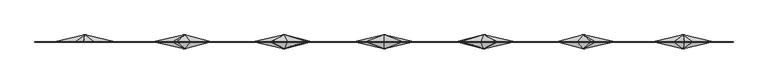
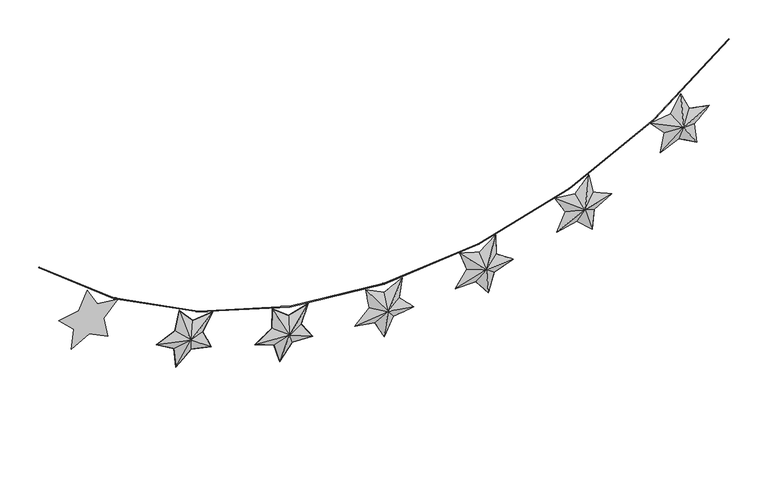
"""IFC4 building model written with IfcOpenShell, lengths in millimetres: furniture geometry, Blocks_Star Garland_F00495EN : Amarelo."""

from ifc_helpers import new_model, si_unit, point, frame, origin, place, context, project, spatial, circle_curve, ellipse_curve, trimmed, source, transform, mapped, element, save
from ifc_brep_helpers import plane_surface, revolved_surface, spline_surface, advanced_brep


def furniture_94a8f807(model_context):
    return source(origin(), model_context, "Body", "AdvancedBrep", [
        advanced_brep(
        [(0.0922072, -20.0, 2127.5237632), (-0.1817259, -20.0, 2126.6806837), (0.5889831, -20.0, 2126.1161692), (1.3269529, -20.0, 2126.6523356), (1.0364943, -20.0, 2127.5237632), (-52.5, 0.0, 2199.9107264), (0.4006727, 0.0, 2172.9564873), (53.3013454, 0.0, 2199.9107264), (44.0135476, 0.0, 2141.269879), (85.9957592, 0.0, 2099.2876674), (27.3549117, 0.0, 2089.9998696), (0.4006727, 0.0, 2037.0991969), (-26.5535663, 0.0, 2089.9998696), (-85.1944138, 0.0, 2099.2876674), (-43.2122022, 0.0, 2141.269879)],
        [
            (0, 1),
            (1, 2),
            (2, 3),
            (3, 4),
            (4, 0),
            (5, 6),
            (6, 7),
            (7, 8),
            (8, 9),
            (9, 10),
            (10, 11),
            (11, 12),
            (12, 13),
            (13, 14),
            (14, 5),
            (14, 1),
            (0, 5),
            (13, 1),
            (12, 1),
            (11, 2),
            (8, 4),
            (3, 9),
            (7, 4),
            (10, 2),
            (6, 0),
        ],
        [
            plane_surface(frame((0.5725823, -20.0, 2126.899343), z_axis=(0.0, -1.0000000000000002, 0.0), x_axis=(-0.30901699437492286, 0.0, -0.9510565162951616))),
            plane_surface(frame((0.4006727, 0.0, 2127.0991969), z_axis=(0.0, 1.0000000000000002, 0.0), x_axis=(-0.30901699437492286, 0.0, -0.9510565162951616))),
            spline_surface(1, 1, [[(-52.5, 0.0, 2199.9107264), (0.0922072, -20.0, 2127.5237632)], [(-43.2122022, 0.0, 2141.269879), (-0.1817259, -20.0, 2126.6806837)]], [2, 2], [2, 2], [0.0, 1.0], [0.0, 1.0]),
            plane_surface(frame((-64.203308, 0.0, 2120.2787732), z_axis=(-0.3115874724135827, -0.8976783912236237, 0.3115874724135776), x_axis=(-0.7071067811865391, 0.0, -0.707106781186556))),
            plane_surface(frame((-55.87399, 0.0, 2094.6437685), z_axis=(-0.06946642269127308, -0.8959966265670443, -0.4385937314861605), x_axis=(0.9876883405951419, 0.0, -0.15643446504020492))),
            spline_surface(1, 1, [[(-26.5535663, 0.0, 2089.9998696), (-0.1817259, -20.0, 2126.6806837)], [(0.4006727, 0.0, 2037.0991969), (0.5889831, -20.0, 2126.1161692)]], [2, 2], [2, 2], [0.0, 1.0], [0.0, 1.0]),
            spline_surface(1, 1, [[(85.9957592, 0.0, 2099.2876674), (1.3269529, -20.0, 2126.6523356)], [(44.0135476, 0.0, 2141.269879), (1.0364943, -20.0, 2127.5237632)]], [2, 2], [2, 2], [0.0, 1.0], [0.0, 1.0]),
            plane_surface(frame((48.6574465, 0.0, 2170.5903027), z_axis=(0.43909252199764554, -0.8957461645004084, -0.06954542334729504), x_axis=(0.15643446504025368, 0.0, 0.9876883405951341))),
            plane_surface(frame((13.8777922, 0.0, 2063.5495332), z_axis=(0.3965254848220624, -0.8955151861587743, -0.2020398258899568), x_axis=(0.45399049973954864, 0.0, 0.8910065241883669))),
            spline_surface(1, 1, [[(27.3549117, 0.0, 2089.9998696), (0.5889831, -20.0, 2126.1161692)], [(85.9957592, 0.0, 2099.2876674), (1.3269529, -20.0, 2126.6523356)]], [2, 2], [2, 2], [0.0, 1.0], [0.0, 1.0]),
            spline_surface(1, 1, [[(53.3013454, 0.0, 2199.9107264), (1.0364943, -20.0, 2127.5237632)], [(0.4006727, 0.0, 2172.9564873), (0.0922072, -20.0, 2127.5237632)]], [2, 2], [2, 2], [0.0, 1.0], [0.0, 1.0]),
            plane_surface(frame((-26.0496636, 0.0, 2186.4336069), z_axis=(0.2005366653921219, -0.8971529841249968, 0.3935753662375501), x_axis=(-0.8910065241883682, 0.0, 0.4539904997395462))),
        ],
        [
            (0, [[1, 2, 3, 4, 5]]),
            (1, [[6, 7, 8, 9, 10, 11, 12, 13, 14, 15]]),
            (2, [[-15, 16, -1, 17]]),
            (3, [[-14, 18, -16]]),
            (4, [[-13, 19, -18]]),
            (5, [[-12, 20, -2, -19]]),
            (6, [[-9, 21, -4, 22]]),
            (7, [[-8, 23, -21]]),
            (8, [[-11, 24, -20]]),
            (9, [[-10, -22, -3, -24]]),
            (10, [[-7, 25, -5, -23]]),
            (11, [[-6, -17, -25]]),
        ],
    ),
        advanced_brep(
        [(0.0922072, 20.0, 2127.5237632), (1.0364943, 20.0, 2127.5237632), (1.3269529, 20.0, 2126.6523356), (0.5889831, 20.0, 2126.1161692), (-0.1817259, 20.0, 2126.6806837), (-52.5, 0.0, 2199.9107264), (-43.2122022, 0.0, 2141.269879), (-85.1944138, 0.0, 2099.2876674), (-26.5535663, 0.0, 2089.9998696), (0.4006727, 0.0, 2037.0991969), (27.3549117, 0.0, 2089.9998696), (85.9957592, 0.0, 2099.2876674), (44.0135476, 0.0, 2141.269879), (53.3013454, 0.0, 2199.9107264), (0.4006727, 0.0, 2172.9564873)],
        [
            (0, 1),
            (1, 2),
            (2, 3),
            (3, 4),
            (4, 0),
            (5, 6),
            (6, 7),
            (7, 8),
            (8, 9),
            (9, 10),
            (10, 11),
            (11, 12),
            (12, 13),
            (13, 14),
            (14, 5),
            (5, 0),
            (4, 6),
            (4, 7),
            (4, 8),
            (3, 9),
            (11, 2),
            (1, 12),
            (1, 13),
            (1, 14),
            (10, 3),
        ],
        [
            plane_surface(frame((0.5725823, 20.0, 2126.899343), z_axis=(0.0, 1.0, 0.0), x_axis=(1.0, 0.0, 0.0))),
            plane_surface(frame((0.4006727, 0.0, 2127.0991969), z_axis=(0.0, -1.0, 0.0), x_axis=(1.0, 0.0, 0.0))),
            spline_surface(1, 1, [[(-43.2122022, 0.0, 2141.269879), (-0.1817259, 20.0, 2126.6806837)], [(-52.5, 0.0, 2199.9107264), (0.0922072, 20.0, 2127.5237632)]], [2, 2], [2, 2], [0.0, 1.0], [0.0, 1.0]),
            plane_surface(frame((-64.203308, 0.0, 2120.2787732), z_axis=(-0.3115874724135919, 0.8976783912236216, 0.31158747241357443), x_axis=(0.7071067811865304, 0.0, 0.7071067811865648))),
            plane_surface(frame((-55.87399, 0.0, 2094.6437685), z_axis=(-0.06946642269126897, 0.8959966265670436, -0.43859373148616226), x_axis=(-0.9876883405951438, 0.0, 0.1564344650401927))),
            spline_surface(1, 1, [[(0.4006727, 0.0, 2037.0991969), (0.5889831, 20.0, 2126.1161692)], [(-26.5535663, 0.0, 2089.9998696), (-0.1817259, 20.0, 2126.6806837)]], [2, 2], [2, 2], [0.0, 1.0], [0.0, 1.0]),
            spline_surface(1, 1, [[(44.0135476, 0.0, 2141.269879), (1.0364943, 20.0, 2127.5237632)], [(85.9957592, 0.0, 2099.2876674), (1.3269529, 20.0, 2126.6523356)]], [2, 2], [2, 2], [0.0, 1.0], [0.0, 1.0]),
            plane_surface(frame((48.6574465, 0.0, 2170.5903027), z_axis=(0.4390925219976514, 0.8957461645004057, -0.06954542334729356), x_axis=(-0.15643446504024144, 0.0, -0.9876883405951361))),
            plane_surface(frame((26.8510091, 0.0, 2186.4336069), z_axis=(-0.19994765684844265, 0.897790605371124, 0.39241937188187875), x_axis=(0.8910065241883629, 0.0, 0.4539904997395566))),
            spline_surface(1, 1, [[(-52.5, 0.0, 2199.9107264), (0.0922072, 20.0, 2127.5237632)], [(0.4006727, 0.0, 2172.9564873), (1.0364943, 20.0, 2127.5237632)]], [2, 2], [2, 2], [0.0, 1.0], [0.0, 1.0]),
            spline_surface(1, 1, [[(85.9957592, 0.0, 2099.2876674), (1.3269529, 20.0, 2126.6523356)], [(27.3549117, 0.0, 2089.9998696), (0.5889831, 20.0, 2126.1161692)]], [2, 2], [2, 2], [0.0, 1.0], [0.0, 1.0]),
            plane_surface(frame((13.8777922, 0.0, 2063.5495332), z_axis=(0.39652548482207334, 0.895515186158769, -0.20203982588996), x_axis=(-0.4539904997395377, 0.0, -0.8910065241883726))),
        ],
        [
            (0, [[1, 2, 3, 4, 5]]),
            (1, [[6, 7, 8, 9, 10, 11, 12, 13, 14, 15]]),
            (2, [[-6, 16, -5, 17]]),
            (3, [[-7, -17, 18]]),
            (4, [[-8, -18, 19]]),
            (5, [[-9, -19, -4, 20]]),
            (6, [[-12, 21, -2, 22]]),
            (7, [[-13, -22, 23]]),
            (8, [[-14, -23, 24]]),
            (9, [[-15, -24, -1, -16]]),
            (10, [[-11, 25, -3, -21]]),
            (11, [[-10, -20, -25]]),
        ],
    ),
        advanced_brep(
        [(-1000.6896552, 0.0, 2598.5517241), (-999.3103448, 0.0, 2600.0), (1000.6896552, 0.0, 2598.5517241), (999.3103448, 0.0, 2600.0)],
        [
            (0, 1, circle_curve(frame((-1000.0, 0.0, 2599.2758621), z_axis=(-0.7241379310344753, 0.0, 0.6896551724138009), x_axis=(0.6896551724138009, 0.0, 0.7241379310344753)), 1.0)),
            (1, 0, circle_curve(frame((-1000.0, 0.0, 2599.2758621), z_axis=(-0.7241379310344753, 0.0, 0.6896551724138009), x_axis=(0.6896551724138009, 0.0, 0.7241379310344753)), 1.0)),
            (2, 3, circle_curve(frame((1000.0, 0.0, 2599.2758621), z_axis=(0.7241379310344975, 0.0, 0.6896551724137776), x_axis=(-0.6896551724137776, 0.0, 0.7241379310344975)), 1.0)),
            (3, 2, circle_curve(frame((1000.0, 0.0, 2599.2758621), z_axis=(0.7241379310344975, 0.0, 0.6896551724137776), x_axis=(-0.6896551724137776, 0.0, 0.7241379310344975)), 1.0)),
            (3, 1, circle_curve(frame((0.0, 0.0, 3649.2758621), z_axis=(0.0, 1.0, 0.0), x_axis=(-0.6896551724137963, 0.0, -0.7241379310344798)), 1449.0)),
            (0, 2, circle_curve(frame((0.0, 0.0, 3649.2758621), z_axis=(0.0, -1.0, 0.0), x_axis=(-0.6896551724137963, 0.0, -0.7241379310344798)), 1451.0)),
        ],
        [
            plane_surface(frame((-1000.0, 0.0, 2599.2758621), z_axis=(-0.7241379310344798, 0.0, 0.6896551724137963), x_axis=(0.0, -1.0, 0.0))),
            plane_surface(frame((1000.0, 0.0, 2599.2758621), z_axis=(0.7241379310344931, 0.0, 0.6896551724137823), x_axis=(0.0, -1.0, 0.0))),
            revolved_surface(trimmed(ellipse_curve(frame((-1000.0, 0.0, 2599.2758621), z_axis=(-0.7241379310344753, 0.0, 0.6896551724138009), x_axis=(0.6896551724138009, 0.0, 0.7241379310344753)), 1.0, 1.0), [point((-1000.6896552, 0.0, 2598.5517241))], [point((-999.3103448, 0.0, 2600.0))], True, "CARTESIAN"), (0.0, 0.0, 3649.2758621), (0.0, -1.0, 0.0)),
            revolved_surface(trimmed(ellipse_curve(frame((-1000.0, 0.0, 2599.2758621), z_axis=(-0.7241379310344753, 0.0, 0.6896551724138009), x_axis=(0.6896551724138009, 0.0, 0.7241379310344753)), 1.0, 1.0), [point((-999.3103448, 0.0, 2600.0))], [point((-1000.6896552, 0.0, 2598.5517241))], True, "CARTESIAN"), (0.0, 0.0, 3649.2758621), (0.0, -1.0, 0.0)),
        ],
        [
            (0, [[1, 2]]),
            (1, [[3, 4]]),
            (2, [[5, -1, 6, -4]]),
            (3, [[-6, -2, -5, -3]]),
        ],
    ),
        advanced_brep(
        [(285.2777109, -20.0, 2155.1232235), (285.1696778, -20.0, 2154.2433648), (286.0339411, -20.0, 2153.8362803), (286.656047, -20.0, 2154.5034071), (286.2046487, -20.0, 2155.303402), (219.8396869, 0.0, 2216.1451681), (276.9115365, 0.0, 2199.7800786), (323.6971636, 0.0, 2236.3330165), (325.76921, 0.0, 2176.9973713), (374.9906737, 0.0, 2143.7970748), (319.1994192, 0.0, 2123.4907188), (302.8343296, 0.0, 2066.4188692), (266.2813917, 0.0, 2113.2044963), (206.9457464, 0.0, 2111.1324499), (240.1460429, 0.0, 2160.3539136)],
        [
            (0, 1),
            (1, 2),
            (2, 3),
            (3, 4),
            (4, 0),
            (5, 6),
            (6, 7),
            (7, 8),
            (8, 9),
            (9, 10),
            (10, 11),
            (11, 12),
            (12, 13),
            (13, 14),
            (14, 5),
            (14, 1),
            (0, 5),
            (13, 1),
            (12, 1),
            (11, 2),
            (10, 3),
            (9, 3),
            (8, 4),
            (7, 4),
            (6, 4),
        ],
        [
            plane_surface(frame((285.8684051, -20.0, 2154.6019356), z_axis=(0.0, -1.0000000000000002, 0.0), x_axis=(-0.12186934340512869, 0.0, -0.9925461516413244))),
            plane_surface(frame((285.66152, 0.0, 2154.7653157), z_axis=(0.0, 1.0000000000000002, 0.0), x_axis=(-0.12186934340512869, 0.0, -0.9925461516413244))),
            spline_surface(1, 1, [[(219.8396869, 0.0, 2216.1451681), (285.2777109, -20.0, 2155.1232235)], [(240.1460429, 0.0, 2160.3539136), (285.1696778, -20.0, 2154.2433648)]], [2, 2], [2, 2], [0.0, 1.0], [0.0, 1.0]),
            plane_surface(frame((223.5458946, 0.0, 2135.7431817), z_axis=(-0.365316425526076, -0.8976783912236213, 0.24640904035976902), x_axis=(-0.5591929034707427, 0.0, -0.8290375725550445))),
            plane_surface(frame((236.613569, 0.0, 2112.1684731), z_axis=(0.015497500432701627, -0.8959966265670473, -0.443790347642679), x_axis=(0.9993908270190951, 0.0, 0.034899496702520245))),
            spline_surface(1, 1, [[(266.2813917, 0.0, 2113.2044963), (285.1696778, -20.0, 2154.2433648)], [(302.8343296, 0.0, 2066.4188692), (286.0339411, -20.0, 2153.8362803)]], [2, 2], [2, 2], [0.0, 1.0], [0.0, 1.0]),
            spline_surface(1, 1, [[(302.8343296, 0.0, 2066.4188692), (286.0339411, -20.0, 2153.8362803)], [(319.1994192, 0.0, 2123.4907188), (286.656047, -20.0, 2154.5034071)]], [2, 2], [2, 2], [0.0, 1.0], [0.0, 1.0]),
            plane_surface(frame((347.0950464, 0.0, 2133.6438968), z_axis=(0.15212524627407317, -0.8956376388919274, -0.41796067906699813), x_axis=(0.9396926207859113, 0.0, 0.34202014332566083))),
            spline_surface(1, 1, [[(374.9906737, 0.0, 2143.7970748), (286.656047, -20.0, 2154.5034071)], [(325.76921, 0.0, 2176.9973713), (286.2046487, -20.0, 2155.303402)]], [2, 2], [2, 2], [0.0, 1.0], [0.0, 1.0]),
            plane_surface(frame((324.7331868, 0.0, 2206.6651939), z_axis=(0.44429504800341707, -0.895746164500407, 0.01551512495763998), x_axis=(-0.034899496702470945, 0.0, 0.9993908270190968))),
            plane_surface(frame((300.3043501, 0.0, 2218.0565475), z_axis=(-0.2711512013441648, -0.8977906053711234, 0.3470577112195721), x_axis=(-0.7880107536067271, 0.0, -0.6156614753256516))),
            spline_surface(1, 1, [[(276.9115365, 0.0, 2199.7800786), (286.2046487, -20.0, 2155.303402)], [(219.8396869, 0.0, 2216.1451681), (285.2777109, -20.0, 2155.1232235)]], [2, 2], [2, 2], [0.0, 1.0], [0.0, 1.0]),
        ],
        [
            (0, [[1, 2, 3, 4, 5]]),
            (1, [[6, 7, 8, 9, 10, 11, 12, 13, 14, 15]]),
            (2, [[-15, 16, -1, 17]]),
            (3, [[-14, 18, -16]]),
            (4, [[-13, 19, -18]]),
            (5, [[-12, 20, -2, -19]]),
            (6, [[-11, 21, -3, -20]]),
            (7, [[-10, 22, -21]]),
            (8, [[-9, 23, -4, -22]]),
            (9, [[-8, 24, -23]]),
            (10, [[-7, 25, -24]]),
            (11, [[-6, -17, -5, -25]]),
        ],
    ),
        advanced_brep(
        [(285.2777109, 20.0, 2155.1232235), (286.2046487, 20.0, 2155.303402), (286.656047, 20.0, 2154.5034071), (286.0339411, 20.0, 2153.8362803), (285.1696778, 20.0, 2154.2433648), (219.8396869, 0.0, 2216.1451681), (240.1460429, 0.0, 2160.3539136), (206.9457464, 0.0, 2111.1324499), (266.2813917, 0.0, 2113.2044963), (302.8343296, 0.0, 2066.4188692), (319.1994192, 0.0, 2123.4907188), (374.9906737, 0.0, 2143.7970748), (325.76921, 0.0, 2176.9973713), (323.6971636, 0.0, 2236.3330165), (276.9115365, 0.0, 2199.7800786)],
        [
            (0, 1),
            (1, 2),
            (2, 3),
            (3, 4),
            (4, 0),
            (5, 6),
            (6, 7),
            (7, 8),
            (8, 9),
            (9, 10),
            (10, 11),
            (11, 12),
            (12, 13),
            (13, 14),
            (14, 5),
            (5, 0),
            (4, 6),
            (4, 7),
            (4, 8),
            (3, 9),
            (11, 2),
            (1, 12),
            (1, 13),
            (10, 3),
            (14, 0),
        ],
        [
            plane_surface(frame((285.8684051, 20.0, 2154.6019356), z_axis=(0.0, 1.0, 0.0), x_axis=(0.9816271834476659, 0.0, 0.19080899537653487))),
            plane_surface(frame((285.66152, 0.0, 2154.7653157), z_axis=(0.0, -1.0, 0.0), x_axis=(0.9816271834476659, 0.0, 0.19080899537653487))),
            spline_surface(1, 1, [[(240.1460429, 0.0, 2160.3539136), (285.1696778, 20.0, 2154.2433648)], [(219.8396869, 0.0, 2216.1451681), (285.2777109, 20.0, 2155.1232235)]], [2, 2], [2, 2], [0.0, 1.0], [0.0, 1.0]),
            plane_surface(frame((223.5458946, 0.0, 2135.7431817), z_axis=(-0.36531642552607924, 0.8976783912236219, 0.24640904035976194), x_axis=(0.5591929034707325, 0.0, 0.8290375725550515))),
            plane_surface(frame((236.613569, 0.0, 2112.1684731), z_axis=(0.015497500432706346, 0.8959966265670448, -0.44379034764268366), x_axis=(-0.9993908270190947, 0.0, -0.034899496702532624))),
            spline_surface(1, 1, [[(302.8343296, 0.0, 2066.4188692), (286.0339411, 20.0, 2153.8362803)], [(266.2813917, 0.0, 2113.2044963), (285.1696778, 20.0, 2154.2433648)]], [2, 2], [2, 2], [0.0, 1.0], [0.0, 1.0]),
            spline_surface(1, 1, [[(325.76921, 0.0, 2176.9973713), (286.2046487, 20.0, 2155.303402)], [(374.9906737, 0.0, 2143.7970748), (286.656047, 20.0, 2154.5034071)]], [2, 2], [2, 2], [0.0, 1.0], [0.0, 1.0]),
            plane_surface(frame((324.7331868, 0.0, 2206.6651939), z_axis=(0.44429504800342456, 0.8957461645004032, 0.015515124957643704), x_axis=(0.034899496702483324, 0.0, -0.9993908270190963))),
            spline_surface(1, 1, [[(374.9906737, 0.0, 2143.7970748), (286.656047, 20.0, 2154.5034071)], [(319.1994192, 0.0, 2123.4907188), (286.0339411, 20.0, 2153.8362803)]], [2, 2], [2, 2], [0.0, 1.0], [0.0, 1.0]),
            plane_surface(frame((311.0168744, 0.0, 2094.954794), z_axis=(0.42779121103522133, 0.8955151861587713, -0.12266715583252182), x_axis=(-0.27563735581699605, 0.0, -0.9612616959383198))),
            plane_surface(frame((248.3756117, 0.0, 2207.9626233), z_axis=(0.12175452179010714, 0.897152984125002, 0.42460847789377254), x_axis=(0.9612616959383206, 0.0, -0.27563735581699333))),
            spline_surface(1, 1, [[(276.9115365, 0.0, 2199.7800786), (285.2777109, 20.0, 2155.1232235)], [(323.6971636, 0.0, 2236.3330165), (286.2046487, 20.0, 2155.303402)]], [2, 2], [2, 2], [0.0, 1.0], [0.0, 1.0]),
        ],
        [
            (0, [[1, 2, 3, 4, 5]]),
            (1, [[6, 7, 8, 9, 10, 11, 12, 13, 14, 15]]),
            (2, [[-6, 16, -5, 17]]),
            (3, [[-7, -17, 18]]),
            (4, [[-8, -18, 19]]),
            (5, [[-9, -19, -4, 20]]),
            (6, [[-12, 21, -2, 22]]),
            (7, [[-13, -22, 23]]),
            (8, [[-11, 24, -3, -21]]),
            (9, [[-10, -20, -24]]),
            (10, [[-15, 25, -16]]),
            (11, [[-14, -23, -1, -25]]),
        ],
    ),
        advanced_brep(
        [(570.6217723, -20.0, 2239.3481068), (570.6681663, -20.0, 2238.4628554), (571.5899891, -20.0, 2238.2120332), (572.0867984, -20.0, 2238.9770524), (571.5033402, -20.0, 2239.686509), (495.5815495, 0.0, 2288.0797973), (554.6281174, 0.0, 2281.8737529), (594.3556146, 0.0, 2325.9956085), (606.6997087, 0.0, 2267.9212121), (660.9385587, 0.0, 2243.7725202), (609.5210604, 0.0, 2214.0866137), (603.315016, 0.0, 2155.0400458), (559.1931604, 0.0, 2194.767543), (501.118764, 0.0, 2182.423449), (525.2674559, 0.0, 2236.662299)],
        [
            (0, 1),
            (1, 2),
            (2, 3),
            (3, 4),
            (4, 0),
            (5, 6),
            (6, 7),
            (7, 8),
            (8, 9),
            (9, 10),
            (10, 11),
            (11, 12),
            (12, 13),
            (13, 14),
            (14, 5),
            (14, 1),
            (0, 5),
            (13, 1),
            (12, 1),
            (11, 2),
            (10, 3),
            (9, 3),
            (8, 4),
            (7, 4),
            (6, 0),
        ],
        [
            plane_surface(frame((571.2940133, -20.0, 2238.9373114), z_axis=(0.0, -1.0000000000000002, 0.0), x_axis=(0.052335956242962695, 0.0, -0.998629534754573))),
            plane_surface(frame((571.0619006, 0.0, 2239.0622842), z_axis=(0.0, 1.0000000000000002, 0.0), x_axis=(0.052335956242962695, 0.0, -0.998629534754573))),
            spline_surface(1, 1, [[(495.5815495, 0.0, 2288.0797973), (570.6217723, -20.0, 2239.3481068)], [(525.2674559, 0.0, 2236.662299), (570.6681663, -20.0, 2238.4628554)]], [2, 2], [2, 2], [0.0, 1.0], [0.0, 1.0]),
            plane_surface(frame((513.19311, 0.0, 2209.542874), z_axis=(-0.40255492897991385, -0.8976783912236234, 0.17922900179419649), x_axis=(-0.4067366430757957, 0.0, -0.913545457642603))),
            plane_surface(frame((530.1559622, 0.0, 2188.595496), z_axis=(0.09232544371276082, -0.8959966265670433, -0.4343570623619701), x_axis=(0.9781476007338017, 0.0, 0.2079116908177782))),
            spline_surface(1, 1, [[(559.1931604, 0.0, 2194.767543), (570.6681663, -20.0, 2238.4628554)], [(603.315016, 0.0, 2155.0400458), (571.5899891, -20.0, 2238.2120332)]], [2, 2], [2, 2], [0.0, 1.0], [0.0, 1.0]),
            spline_surface(1, 1, [[(603.315016, 0.0, 2155.0400458), (571.5899891, -20.0, 2238.2120332)], [(609.5210604, 0.0, 2214.0866137), (572.0867984, -20.0, 2238.9770524)]], [2, 2], [2, 2], [0.0, 1.0], [0.0, 1.0]),
            plane_surface(frame((635.2298096, 0.0, 2228.929567), z_axis=(0.22239223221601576, -0.895637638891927, -0.38519464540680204), x_axis=(0.8660254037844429, 0.0, 0.4999999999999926))),
            spline_surface(1, 1, [[(660.9385587, 0.0, 2243.7725202), (572.0867984, -20.0, 2238.9770524)], [(606.6997087, 0.0, 2267.9212121), (571.5033402, -20.0, 2239.686509)]], [2, 2], [2, 2], [0.0, 1.0], [0.0, 1.0]),
            plane_surface(frame((600.5276616, 0.0, 2296.9584103), z_axis=(0.434851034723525, -0.8957461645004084, 0.09243044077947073), x_axis=(-0.20791169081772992, 0.0, 0.978147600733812))),
            spline_surface(1, 1, [[(594.3556146, 0.0, 2325.9956085), (571.5033402, -20.0, 2239.686509)], [(554.6281174, 0.0, 2281.8737529), (570.6217723, -20.0, 2239.3481068)]], [2, 2], [2, 2], [0.0, 1.0], [0.0, 1.0]),
            plane_surface(frame((525.1048334, 0.0, 2284.9767751), z_axis=(0.04617230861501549, -0.897152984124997, 0.4393001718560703), x_axis=(-0.9945218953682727, 0.0, 0.1045284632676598))),
        ],
        [
            (0, [[1, 2, 3, 4, 5]]),
            (1, [[6, 7, 8, 9, 10, 11, 12, 13, 14, 15]]),
            (2, [[-15, 16, -1, 17]]),
            (3, [[-14, 18, -16]]),
            (4, [[-13, 19, -18]]),
            (5, [[-12, 20, -2, -19]]),
            (6, [[-11, 21, -3, -20]]),
            (7, [[-10, 22, -21]]),
            (8, [[-9, 23, -4, -22]]),
            (9, [[-8, 24, -23]]),
            (10, [[-7, 25, -5, -24]]),
            (11, [[-6, -17, -25]]),
        ],
    ),
        advanced_brep(
        [(570.6217723, 20.0, 2239.3481068), (571.5033402, 20.0, 2239.686509), (572.0867984, 20.0, 2238.9770524), (571.5899891, 20.0, 2238.2120332), (570.6681663, 20.0, 2238.4628554), (495.5815495, 0.0, 2288.0797973), (525.2674559, 0.0, 2236.662299), (501.118764, 0.0, 2182.423449), (559.1931604, 0.0, 2194.767543), (603.315016, 0.0, 2155.0400458), (609.5210604, 0.0, 2214.0866137), (660.9385587, 0.0, 2243.7725202), (606.6997087, 0.0, 2267.9212121), (594.3556146, 0.0, 2325.9956085), (554.6281174, 0.0, 2281.8737529)],
        [
            (0, 1),
            (1, 2),
            (2, 3),
            (3, 4),
            (4, 0),
            (5, 6),
            (6, 7),
            (7, 8),
            (8, 9),
            (9, 10),
            (10, 11),
            (11, 12),
            (12, 13),
            (13, 14),
            (14, 5),
            (5, 0),
            (4, 6),
            (4, 7),
            (4, 8),
            (3, 9),
            (2, 10),
            (2, 11),
            (1, 12),
            (1, 13),
            (1, 14),
        ],
        [
            plane_surface(frame((571.2940133, 20.0, 2238.9373114), z_axis=(0.0, 1.0, 0.0), x_axis=(0.9335804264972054, 0.0, 0.3583679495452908))),
            plane_surface(frame((571.0619006, 0.0, 2239.0622842), z_axis=(0.0, -1.0, 0.0), x_axis=(0.9335804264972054, 0.0, 0.3583679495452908))),
            spline_surface(1, 1, [[(525.2674559, 0.0, 2236.662299), (570.6681663, 20.0, 2238.4628554)], [(495.5815495, 0.0, 2288.0797973), (570.6217723, 20.0, 2239.3481068)]], [2, 2], [2, 2], [0.0, 1.0], [0.0, 1.0]),
            plane_surface(frame((513.19311, 0.0, 2209.542874), z_axis=(-0.4025549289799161, 0.8976783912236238, 0.17922900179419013), x_axis=(0.4067366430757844, 0.0, 0.9135454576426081))),
            plane_surface(frame((530.1559622, 0.0, 2188.595496), z_axis=(0.09232544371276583, 0.8959966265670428, -0.4343570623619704), x_axis=(-0.9781476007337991, 0.0, -0.20791169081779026))),
            spline_surface(1, 1, [[(603.315016, 0.0, 2155.0400458), (571.5899891, 20.0, 2238.2120332)], [(559.1931604, 0.0, 2194.767543), (570.6681663, 20.0, 2238.4628554)]], [2, 2], [2, 2], [0.0, 1.0], [0.0, 1.0]),
            spline_surface(1, 1, [[(609.5210604, 0.0, 2214.0866137), (572.0867984, 20.0, 2238.9770524)], [(603.315016, 0.0, 2155.0400458), (571.5899891, 20.0, 2238.2120332)]], [2, 2], [2, 2], [0.0, 1.0], [0.0, 1.0]),
            plane_surface(frame((635.2298096, 0.0, 2228.929567), z_axis=(0.22239223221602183, 0.8956376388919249, -0.3851946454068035), x_axis=(-0.8660254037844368, 0.0, -0.5000000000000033))),
            spline_surface(1, 1, [[(606.6997087, 0.0, 2267.9212121), (571.5033402, 20.0, 2239.686509)], [(660.9385587, 0.0, 2243.7725202), (572.0867984, 20.0, 2238.9770524)]], [2, 2], [2, 2], [0.0, 1.0], [0.0, 1.0]),
            plane_surface(frame((600.5276616, 0.0, 2296.9584103), z_axis=(0.43485103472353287, 0.8957461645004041, 0.09243044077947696), x_axis=(0.20791169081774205, 0.0, -0.9781476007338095))),
            plane_surface(frame((574.491866, 0.0, 2303.9346807), z_axis=(-0.32729774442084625, 0.897790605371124, 0.2947002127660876), x_axis=(0.6691306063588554, 0.0, 0.7431448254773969))),
            spline_surface(1, 1, [[(495.5815495, 0.0, 2288.0797973), (570.6217723, 20.0, 2239.3481068)], [(554.6281174, 0.0, 2281.8737529), (571.5033402, 20.0, 2239.686509)]], [2, 2], [2, 2], [0.0, 1.0], [0.0, 1.0]),
        ],
        [
            (0, [[1, 2, 3, 4, 5]]),
            (1, [[6, 7, 8, 9, 10, 11, 12, 13, 14, 15]]),
            (2, [[-6, 16, -5, 17]]),
            (3, [[-7, -17, 18]]),
            (4, [[-8, -18, 19]]),
            (5, [[-9, -19, -4, 20]]),
            (6, [[-10, -20, -3, 21]]),
            (7, [[-11, -21, 22]]),
            (8, [[-12, -22, -2, 23]]),
            (9, [[-13, -23, 24]]),
            (10, [[-14, -24, 25]]),
            (11, [[-15, -25, -1, -16]]),
        ],
    ),
        advanced_brep(
        [(856.4274722, -20.0, 2391.1650767), (856.6718154, -20.0, 2390.3129506), (857.6264346, -20.0, 2390.2759219), (857.9384188, -20.0, 2391.1330915), (857.2103216, -20.0, 2391.6931154), (772.3482802, 0.0, 2421.7673999), (831.2775447, 0.0, 2429.0030038), (860.0615708, 0.0, 2480.9307614), (885.1531832, 0.0, 2427.121625), (943.4341687, 0.0, 2415.792949), (900.0123736, 0.0, 2375.30147), (907.2479774, 0.0, 2316.3722055), (855.3202198, 0.0, 2345.1562316), (801.5110833, 0.0, 2320.0646192), (812.8397593, 0.0, 2378.3456047)],
        [
            (0, 1),
            (1, 2),
            (2, 3),
            (3, 4),
            (4, 0),
            (5, 6),
            (6, 7),
            (7, 8),
            (8, 9),
            (9, 10),
            (10, 11),
            (11, 12),
            (12, 13),
            (13, 14),
            (14, 5),
            (12, 1),
            (1, 13),
            (11, 2),
            (8, 4),
            (3, 9),
            (7, 4),
            (10, 2),
            (14, 0),
            (0, 5),
            (6, 0),
        ],
        [
            plane_surface(frame((857.1748925, -20.0, 2390.9160312), z_axis=(0.0, -1.0, 0.0), x_axis=(0.27563735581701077, 0.0, -0.9612616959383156))),
            plane_surface(frame((856.9206161, 0.0, 2390.985587), z_axis=(0.0, 1.0, 0.0), x_axis=(0.27563735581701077, 0.0, -0.9612616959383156))),
            plane_surface(frame((828.4156515, 0.0, 2332.6104254), z_axis=(0.18766822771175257, -0.8959966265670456, -0.40245581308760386), x_axis=(0.9063077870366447, 0.0, 0.42261826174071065))),
            spline_surface(1, 1, [[(855.3202198, 0.0, 2345.1562316), (856.6718154, -20.0, 2390.3129506)], [(907.2479774, 0.0, 2316.3722055), (857.6264346, -20.0, 2390.2759219)]], [2, 2], [2, 2], [0.0, 1.0], [0.0, 1.0]),
            spline_surface(1, 1, [[(943.4341687, 0.0, 2415.792949), (857.9384188, -20.0, 2391.1330915)], [(885.1531832, 0.0, 2427.121625), (857.2103216, -20.0, 2391.6931154)]], [2, 2], [2, 2], [0.0, 1.0], [0.0, 1.0]),
            plane_surface(frame((872.607377, 0.0, 2454.0261932), z_axis=(0.40291350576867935, -0.8957461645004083, 0.18788165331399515), x_axis=(-0.42261826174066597, 0.0, 0.9063077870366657))),
            plane_surface(frame((903.6301755, 0.0, 2345.8368377), z_axis=(0.44171376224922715, -0.8955151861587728, 0.054235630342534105), x_axis=(-0.12186934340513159, 0.0, 0.992546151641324))),
            spline_surface(1, 1, [[(900.0123736, 0.0, 2375.30147), (857.6264346, -20.0, 2390.2759219)], [(943.4341687, 0.0, 2415.792949), (857.9384188, -20.0, 2391.1330915)]], [2, 2], [2, 2], [0.0, 1.0], [0.0, 1.0]),
            plane_surface(frame((792.5940198, 0.0, 2400.0565023), z_axis=(-0.3230535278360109, -0.8971529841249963, -0.3012522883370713), x_axis=(0.681998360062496, 0.0, -0.7313537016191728))),
            spline_surface(1, 1, [[(812.8397593, 0.0, 2378.3456047), (856.4274722, -20.0, 2391.1650767)], [(801.5110833, 0.0, 2320.0646192), (856.6718154, -20.0, 2390.3129506)]], [2, 2], [2, 2], [0.0, 1.0], [0.0, 1.0]),
            spline_surface(1, 1, [[(860.0615708, 0.0, 2480.9307614), (857.2103216, -20.0, 2391.6931154)], [(831.2775447, 0.0, 2429.0030038), (856.4274722, -20.0, 2391.1650767)]], [2, 2], [2, 2], [0.0, 1.0], [0.0, 1.0]),
            plane_surface(frame((801.8129125, 0.0, 2425.3852018), z_axis=(-0.05383212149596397, -0.8971529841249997, 0.4384274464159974), x_axis=(-0.9925461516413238, 0.0, -0.12186934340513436))),
        ],
        [
            (0, [[1, 2, 3, 4, 5]]),
            (1, [[6, 7, 8, 9, 10, 11, 12, 13, 14, 15]]),
            (2, [[-13, 16, 17]]),
            (3, [[-12, 18, -2, -16]]),
            (4, [[-9, 19, -4, 20]]),
            (5, [[-8, 21, -19]]),
            (6, [[-11, 22, -18]]),
            (7, [[-10, -20, -3, -22]]),
            (8, [[-15, 23, 24]]),
            (9, [[-14, -17, -1, -23]]),
            (10, [[-7, 25, -5, -21]]),
            (11, [[-6, -24, -25]]),
        ],
    ),
        advanced_brep(
        [(856.4274722, 20.0, 2391.1650767), (857.2103216, 20.0, 2391.6931154), (857.9384188, 20.0, 2391.1330915), (857.6264346, 20.0, 2390.2759219), (856.6718154, 20.0, 2390.3129506), (772.3482802, 0.0, 2421.7673999), (812.8397593, 0.0, 2378.3456047), (801.5110833, 0.0, 2320.0646192), (855.3202198, 0.0, 2345.1562316), (907.2479774, 0.0, 2316.3722055), (900.0123736, 0.0, 2375.30147), (943.4341687, 0.0, 2415.792949), (885.1531832, 0.0, 2427.121625), (860.0615708, 0.0, 2480.9307614), (831.2775447, 0.0, 2429.0030038)],
        [
            (0, 1),
            (1, 2),
            (2, 3),
            (3, 4),
            (4, 0),
            (5, 6),
            (6, 7),
            (7, 8),
            (8, 9),
            (9, 10),
            (10, 11),
            (11, 12),
            (12, 13),
            (13, 14),
            (14, 5),
            (5, 0),
            (4, 6),
            (4, 7),
            (4, 8),
            (3, 9),
            (11, 2),
            (1, 12),
            (1, 13),
            (1, 14),
            (10, 3),
        ],
        [
            plane_surface(frame((857.1748925, 20.0, 2390.9160312), z_axis=(0.0, 1.0000000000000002, 0.0), x_axis=(0.8290375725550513, 0.0, 0.5591929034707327))),
            plane_surface(frame((856.9206161, 0.0, 2390.985587), z_axis=(0.0, -1.0000000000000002, 0.0), x_axis=(0.8290375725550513, 0.0, 0.5591929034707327))),
            spline_surface(1, 1, [[(812.8397593, 0.0, 2378.3456047), (856.6718154, 20.0, 2390.3129506)], [(772.3482802, 0.0, 2421.7673999), (856.4274722, 20.0, 2391.1650767)]], [2, 2], [2, 2], [0.0, 1.0], [0.0, 1.0]),
            plane_surface(frame((807.1754213, 0.0, 2349.205112), z_axis=(-0.432555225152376, 0.8976783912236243, 0.0840802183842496), x_axis=(0.19080899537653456, 0.0, 0.981627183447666))),
            plane_surface(frame((828.4156515, 0.0, 2332.6104254), z_axis=(0.18766822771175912, 0.8959966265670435, -0.40245581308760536), x_axis=(-0.9063077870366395, 0.0, -0.42261826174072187))),
            spline_surface(1, 1, [[(907.2479774, 0.0, 2316.3722055), (857.6264346, 20.0, 2390.2759219)], [(855.3202198, 0.0, 2345.1562316), (856.6718154, 20.0, 2390.3129506)]], [2, 2], [2, 2], [0.0, 1.0], [0.0, 1.0]),
            spline_surface(1, 1, [[(885.1531832, 0.0, 2427.121625), (857.2103216, 20.0, 2391.6931154)], [(943.4341687, 0.0, 2415.792949), (857.9384188, 20.0, 2391.1330915)]], [2, 2], [2, 2], [0.0, 1.0], [0.0, 1.0]),
            plane_surface(frame((872.607377, 0.0, 2454.0261932), z_axis=(0.4029135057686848, 0.8957461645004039, 0.18788165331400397), x_axis=(0.4226182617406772, 0.0, -0.9063077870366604))),
            plane_surface(frame((845.6695578, 0.0, 2454.9668826), z_axis=(-0.3852022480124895, 0.8977906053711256, 0.21352109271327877), x_axis=(0.4848096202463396, 0.0, 0.8746197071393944))),
            spline_surface(1, 1, [[(772.3482802, 0.0, 2421.7673999), (856.4274722, 20.0, 2391.1650767)], [(831.2775447, 0.0, 2429.0030038), (857.2103216, 20.0, 2391.6931154)]], [2, 2], [2, 2], [0.0, 1.0], [0.0, 1.0]),
            spline_surface(1, 1, [[(943.4341687, 0.0, 2415.792949), (857.9384188, 20.0, 2391.1330915)], [(900.0123736, 0.0, 2375.30147), (857.6264346, 20.0, 2390.2759219)]], [2, 2], [2, 2], [0.0, 1.0], [0.0, 1.0]),
            plane_surface(frame((903.6301755, 0.0, 2345.8368377), z_axis=(0.4417137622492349, 0.8955151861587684, 0.054235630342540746), x_axis=(0.12186934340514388, 0.0, -0.9925461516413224))),
        ],
        [
            (0, [[1, 2, 3, 4, 5]]),
            (1, [[6, 7, 8, 9, 10, 11, 12, 13, 14, 15]]),
            (2, [[-6, 16, -5, 17]]),
            (3, [[-7, -17, 18]]),
            (4, [[-8, -18, 19]]),
            (5, [[-9, -19, -4, 20]]),
            (6, [[-12, 21, -2, 22]]),
            (7, [[-13, -22, 23]]),
            (8, [[-14, -23, 24]]),
            (9, [[-15, -24, -1, -16]]),
            (10, [[-11, 25, -3, -21]]),
            (11, [[-10, -20, -25]]),
        ],
    ),
        advanced_brep(
        [(-285.2777109, 20.0, 2155.1232235), (-285.1696778, 20.0, 2154.2433648), (-286.0339411, 20.0, 2153.8362803), (-286.656047, 20.0, 2154.5034071), (-286.2046487, 20.0, 2155.303402), (-219.8396869, 0.0, 2216.1451681), (-276.9115365, 0.0, 2199.7800786), (-323.6971636, 0.0, 2236.3330165), (-325.76921, 0.0, 2176.9973713), (-374.9906737, 0.0, 2143.7970748), (-319.1994192, 0.0, 2123.4907188), (-302.8343296, 0.0, 2066.4188692), (-266.2813917, 0.0, 2113.2044963), (-206.9457464, 0.0, 2111.1324499), (-240.1460429, 0.0, 2160.3539136)],
        [
            (0, 1),
            (1, 2),
            (2, 3),
            (3, 4),
            (4, 0),
            (5, 6),
            (6, 7),
            (7, 8),
            (8, 9),
            (9, 10),
            (10, 11),
            (11, 12),
            (12, 13),
            (13, 14),
            (14, 5),
            (14, 1),
            (0, 5),
            (13, 1),
            (12, 1),
            (11, 2),
            (8, 4),
            (3, 9),
            (7, 4),
            (6, 4),
            (10, 2),
        ],
        [
            plane_surface(frame((-285.8684051, 20.0, 2154.6019356), z_axis=(0.0, 1.0000000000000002, 0.0), x_axis=(0.12186934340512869, 0.0, -0.9925461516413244))),
            plane_surface(frame((-285.66152, 0.0, 2154.7653157), z_axis=(0.0, -1.0000000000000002, 0.0), x_axis=(0.12186934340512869, 0.0, -0.9925461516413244))),
            spline_surface(1, 1, [[(-219.8396869, 0.0, 2216.1451681), (-285.2777109, 20.0, 2155.1232235)], [(-240.1460429, 0.0, 2160.3539136), (-285.1696778, 20.0, 2154.2433648)]], [2, 2], [2, 2], [0.0, 1.0], [0.0, 1.0]),
            plane_surface(frame((-223.5458946, 0.0, 2135.7431817), z_axis=(0.36531642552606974, 0.897678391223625, 0.24640904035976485), x_axis=(0.5591929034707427, 0.0, -0.8290375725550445))),
            plane_surface(frame((-236.613569, 0.0, 2112.1684731), z_axis=(-0.015497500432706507, 0.8959966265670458, -0.44379034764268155), x_axis=(-0.9993908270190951, 0.0, 0.034899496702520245))),
            spline_surface(1, 1, [[(-266.2813917, 0.0, 2113.2044963), (-285.1696778, 20.0, 2154.2433648)], [(-302.8343296, 0.0, 2066.4188692), (-286.0339411, 20.0, 2153.8362803)]], [2, 2], [2, 2], [0.0, 1.0], [0.0, 1.0]),
            spline_surface(1, 1, [[(-374.9906737, 0.0, 2143.7970748), (-286.656047, 20.0, 2154.5034071)], [(-325.76921, 0.0, 2176.9973713), (-286.2046487, 20.0, 2155.303402)]], [2, 2], [2, 2], [0.0, 1.0], [0.0, 1.0]),
            plane_surface(frame((-324.7331868, 0.0, 2206.6651939), z_axis=(-0.444295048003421, 0.8957461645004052, 0.015515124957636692), x_axis=(0.034899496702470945, 0.0, 0.9993908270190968))),
            plane_surface(frame((-300.3043501, 0.0, 2218.0565475), z_axis=(0.27115120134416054, 0.8977906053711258, 0.34705771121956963), x_axis=(0.7880107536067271, 0.0, -0.6156614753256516))),
            spline_surface(1, 1, [[(-276.9115365, 0.0, 2199.7800786), (-286.2046487, 20.0, 2155.303402)], [(-219.8396869, 0.0, 2216.1451681), (-285.2777109, 20.0, 2155.1232235)]], [2, 2], [2, 2], [0.0, 1.0], [0.0, 1.0]),
            plane_surface(frame((-311.0168744, 0.0, 2094.954794), z_axis=(-0.427791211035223, 0.8955151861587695, -0.12266715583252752), x_axis=(-0.27563735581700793, 0.0, 0.9612616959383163))),
            spline_surface(1, 1, [[(-319.1994192, 0.0, 2123.4907188), (-286.0339411, 20.0, 2153.8362803)], [(-374.9906737, 0.0, 2143.7970748), (-286.656047, 20.0, 2154.5034071)]], [2, 2], [2, 2], [0.0, 1.0], [0.0, 1.0]),
        ],
        [
            (0, [[1, 2, 3, 4, 5]]),
            (1, [[6, 7, 8, 9, 10, 11, 12, 13, 14, 15]]),
            (2, [[-15, 16, -1, 17]]),
            (3, [[-14, 18, -16]]),
            (4, [[-13, 19, -18]]),
            (5, [[-12, 20, -2, -19]]),
            (6, [[-9, 21, -4, 22]]),
            (7, [[-8, 23, -21]]),
            (8, [[-7, 24, -23]]),
            (9, [[-6, -17, -5, -24]]),
            (10, [[-11, 25, -20]]),
            (11, [[-10, -22, -3, -25]]),
        ],
    ),
        advanced_brep(
        [(-285.2777109, -20.0, 2155.1232235), (-286.2046487, -20.0, 2155.303402), (-286.656047, -20.0, 2154.5034071), (-286.0339411, -20.0, 2153.8362803), (-285.1696778, -20.0, 2154.2433648), (-219.8396869, 0.0, 2216.1451681), (-240.1460429, 0.0, 2160.3539136), (-206.9457464, 0.0, 2111.1324499), (-266.2813917, 0.0, 2113.2044963), (-302.8343296, 0.0, 2066.4188692), (-319.1994192, 0.0, 2123.4907188), (-374.9906737, 0.0, 2143.7970748), (-325.76921, 0.0, 2176.9973713), (-323.6971636, 0.0, 2236.3330165), (-276.9115365, 0.0, 2199.7800786)],
        [
            (0, 1),
            (1, 2),
            (2, 3),
            (3, 4),
            (4, 0),
            (5, 6),
            (6, 7),
            (7, 8),
            (8, 9),
            (9, 10),
            (10, 11),
            (11, 12),
            (12, 13),
            (13, 14),
            (14, 5),
            (5, 0),
            (4, 6),
            (4, 7),
            (4, 8),
            (3, 9),
            (2, 10),
            (2, 11),
            (1, 12),
            (1, 13),
            (1, 14),
        ],
        [
            plane_surface(frame((-285.8684051, -20.0, 2154.6019356), z_axis=(0.0, -1.0, 0.0), x_axis=(-0.9816271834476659, 0.0, 0.19080899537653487))),
            plane_surface(frame((-285.66152, 0.0, 2154.7653157), z_axis=(0.0, 1.0, 0.0), x_axis=(-0.9816271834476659, 0.0, 0.19080899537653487))),
            spline_surface(1, 1, [[(-240.1460429, 0.0, 2160.3539136), (-285.1696778, -20.0, 2154.2433648)], [(-219.8396869, 0.0, 2216.1451681), (-285.2777109, -20.0, 2155.1232235)]], [2, 2], [2, 2], [0.0, 1.0], [0.0, 1.0]),
            plane_surface(frame((-223.5458946, 0.0, 2135.7431817), z_axis=(0.36531642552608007, -0.8976783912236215, 0.24640904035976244), x_axis=(-0.5591929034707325, 0.0, 0.8290375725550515))),
            plane_surface(frame((-236.613569, 0.0, 2112.1684731), z_axis=(-0.01549750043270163, -0.8959966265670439, -0.4437903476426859), x_axis=(0.9993908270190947, 0.0, -0.034899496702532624))),
            spline_surface(1, 1, [[(-302.8343296, 0.0, 2066.4188692), (-286.0339411, -20.0, 2153.8362803)], [(-266.2813917, 0.0, 2113.2044963), (-285.1696778, -20.0, 2154.2433648)]], [2, 2], [2, 2], [0.0, 1.0], [0.0, 1.0]),
            spline_surface(1, 1, [[(-319.1994192, 0.0, 2123.4907188), (-286.656047, -20.0, 2154.5034071)], [(-302.8343296, 0.0, 2066.4188692), (-286.0339411, -20.0, 2153.8362803)]], [2, 2], [2, 2], [0.0, 1.0], [0.0, 1.0]),
            plane_surface(frame((-347.0950464, 0.0, 2133.6438968), z_axis=(-0.15212524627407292, -0.8956376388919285, -0.4179606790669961), x_axis=(0.9396926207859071, 0.0, -0.34202014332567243))),
            spline_surface(1, 1, [[(-325.76921, 0.0, 2176.9973713), (-286.2046487, -20.0, 2155.303402)], [(-374.9906737, 0.0, 2143.7970748), (-286.656047, -20.0, 2154.5034071)]], [2, 2], [2, 2], [0.0, 1.0], [0.0, 1.0]),
            plane_surface(frame((-324.7331868, 0.0, 2206.6651939), z_axis=(-0.4442950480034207, -0.895746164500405, 0.015515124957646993), x_axis=(-0.034899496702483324, 0.0, -0.9993908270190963))),
            plane_surface(frame((-300.3043501, 0.0, 2218.0565475), z_axis=(0.27115120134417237, -0.8977906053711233, 0.3470577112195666), x_axis=(-0.7880107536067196, 0.0, 0.6156614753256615))),
            spline_surface(1, 1, [[(-219.8396869, 0.0, 2216.1451681), (-285.2777109, -20.0, 2155.1232235)], [(-276.9115365, 0.0, 2199.7800786), (-286.2046487, -20.0, 2155.303402)]], [2, 2], [2, 2], [0.0, 1.0], [0.0, 1.0]),
        ],
        [
            (0, [[1, 2, 3, 4, 5]]),
            (1, [[6, 7, 8, 9, 10, 11, 12, 13, 14, 15]]),
            (2, [[-6, 16, -5, 17]]),
            (3, [[-7, -17, 18]]),
            (4, [[-8, -18, 19]]),
            (5, [[-9, -19, -4, 20]]),
            (6, [[-10, -20, -3, 21]]),
            (7, [[-11, -21, 22]]),
            (8, [[-12, -22, -2, 23]]),
            (9, [[-13, -23, 24]]),
            (10, [[-14, -24, 25]]),
            (11, [[-15, -25, -1, -16]]),
        ],
    ),
        advanced_brep(
        [(-570.6217723, 20.0, 2239.3481068), (-570.6681663, 20.0, 2238.4628554), (-571.5899891, 20.0, 2238.2120332), (-572.0867984, 20.0, 2238.9770524), (-571.5033402, 20.0, 2239.686509), (-495.5815495, 0.0, 2288.0797973), (-554.6281174, 0.0, 2281.8737529), (-594.3556146, 0.0, 2325.9956085), (-606.6997087, 0.0, 2267.9212121), (-660.9385587, 0.0, 2243.7725202), (-609.5210604, 0.0, 2214.0866137), (-603.315016, 0.0, 2155.0400458), (-559.1931604, 0.0, 2194.767543), (-501.118764, 0.0, 2182.423449), (-525.2674559, 0.0, 2236.662299)],
        [
            (0, 1),
            (1, 2),
            (2, 3),
            (3, 4),
            (4, 0),
            (5, 6),
            (6, 7),
            (7, 8),
            (8, 9),
            (9, 10),
            (10, 11),
            (11, 12),
            (12, 13),
            (13, 14),
            (14, 5),
            (12, 1),
            (1, 13),
            (11, 2),
            (8, 4),
            (3, 9),
            (7, 4),
            (10, 2),
            (14, 0),
            (0, 5),
            (6, 0),
        ],
        [
            plane_surface(frame((-571.2940133, 20.0, 2238.9373114), z_axis=(0.0, 1.0000000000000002, 0.0), x_axis=(-0.05233595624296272, 0.0, -0.998629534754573))),
            plane_surface(frame((-571.0619006, 0.0, 2239.0622842), z_axis=(0.0, -1.0000000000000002, 0.0), x_axis=(-0.05233595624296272, 0.0, -0.998629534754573))),
            plane_surface(frame((-530.1559622, 0.0, 2188.595496), z_axis=(-0.0923254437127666, 0.8959966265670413, -0.43435706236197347), x_axis=(-0.9781476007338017, 0.0, 0.20791169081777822))),
            spline_surface(1, 1, [[(-559.1931604, 0.0, 2194.767543), (-570.6681663, 20.0, 2238.4628554)], [(-603.315016, 0.0, 2155.0400458), (-571.5899891, 20.0, 2238.2120332)]], [2, 2], [2, 2], [0.0, 1.0], [0.0, 1.0]),
            spline_surface(1, 1, [[(-660.9385587, 0.0, 2243.7725202), (-572.0867984, 20.0, 2238.9770524)], [(-606.6997087, 0.0, 2267.9212121), (-571.5033402, 20.0, 2239.686509)]], [2, 2], [2, 2], [0.0, 1.0], [0.0, 1.0]),
            plane_surface(frame((-600.5276616, 0.0, 2296.9584103), z_axis=(-0.4348510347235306, 0.895746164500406, 0.09243044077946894), x_axis=(0.20791169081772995, 0.0, 0.978147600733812))),
            plane_surface(frame((-606.4180382, 0.0, 2184.5633298), z_axis=(-0.4425930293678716, 0.8955151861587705, -0.04651840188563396), x_axis=(-0.10452846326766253, 0.0, 0.9945218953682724))),
            spline_surface(1, 1, [[(-609.5210604, 0.0, 2214.0866137), (-571.5899891, 20.0, 2238.2120332)], [(-660.9385587, 0.0, 2243.7725202), (-572.0867984, 20.0, 2238.9770524)]], [2, 2], [2, 2], [0.0, 1.0], [0.0, 1.0]),
            plane_surface(frame((-510.4245027, 0.0, 2262.3710482), z_axis=(0.38254070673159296, 0.8971529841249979, -0.22085998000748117), x_axis=(-0.500000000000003, 0.0, -0.8660254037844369))),
            spline_surface(1, 1, [[(-525.2674559, 0.0, 2236.662299), (-570.6217723, 20.0, 2239.3481068)], [(-501.118764, 0.0, 2182.423449), (-570.6681663, 20.0, 2238.4628554)]], [2, 2], [2, 2], [0.0, 1.0], [0.0, 1.0]),
            spline_surface(1, 1, [[(-594.3556146, 0.0, 2325.9956085), (-571.5033402, 20.0, 2239.686509)], [(-554.6281174, 0.0, 2281.8737529), (-570.6217723, 20.0, 2239.3481068)]], [2, 2], [2, 2], [0.0, 1.0], [0.0, 1.0]),
            plane_surface(frame((-525.1048334, 0.0, 2284.9767751), z_axis=(-0.0461723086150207, 0.8971529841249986, 0.43930017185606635), x_axis=(0.9945218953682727, 0.0, 0.10452846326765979))),
        ],
        [
            (0, [[1, 2, 3, 4, 5]]),
            (1, [[6, 7, 8, 9, 10, 11, 12, 13, 14, 15]]),
            (2, [[-13, 16, 17]]),
            (3, [[-12, 18, -2, -16]]),
            (4, [[-9, 19, -4, 20]]),
            (5, [[-8, 21, -19]]),
            (6, [[-11, 22, -18]]),
            (7, [[-10, -20, -3, -22]]),
            (8, [[-15, 23, 24]]),
            (9, [[-14, -17, -1, -23]]),
            (10, [[-7, 25, -5, -21]]),
            (11, [[-6, -24, -25]]),
        ],
    ),
        advanced_brep(
        [(-570.6217723, -20.0, 2239.3481068), (-571.5033402, -20.0, 2239.686509), (-572.0867984, -20.0, 2238.9770524), (-571.5899891, -20.0, 2238.2120332), (-570.6681663, -20.0, 2238.4628554), (-495.5815495, 0.0, 2288.0797973), (-525.2674559, 0.0, 2236.662299), (-501.118764, 0.0, 2182.423449), (-559.1931604, 0.0, 2194.767543), (-603.315016, 0.0, 2155.0400458), (-609.5210604, 0.0, 2214.0866137), (-660.9385587, 0.0, 2243.7725202), (-606.6997087, 0.0, 2267.9212121), (-594.3556146, 0.0, 2325.9956085), (-554.6281174, 0.0, 2281.8737529)],
        [
            (0, 1),
            (1, 2),
            (2, 3),
            (3, 4),
            (4, 0),
            (5, 6),
            (6, 7),
            (7, 8),
            (8, 9),
            (9, 10),
            (10, 11),
            (11, 12),
            (12, 13),
            (13, 14),
            (14, 5),
            (7, 4),
            (4, 8),
            (3, 9),
            (2, 10),
            (2, 11),
            (1, 12),
            (1, 13),
            (6, 0),
            (5, 0),
            (14, 0),
        ],
        [
            plane_surface(frame((-571.2940133, -20.0, 2238.9373114), z_axis=(0.0, -1.0, 0.0), x_axis=(-0.9335804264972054, 0.0, 0.3583679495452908))),
            plane_surface(frame((-571.0619006, 0.0, 2239.0622842), z_axis=(0.0, 1.0, 0.0), x_axis=(-0.9335804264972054, 0.0, 0.3583679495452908))),
            plane_surface(frame((-530.1559622, 0.0, 2188.595496), z_axis=(-0.092325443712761, -0.8959966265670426, -0.4343570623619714), x_axis=(0.9781476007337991, 0.0, -0.2079116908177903))),
            spline_surface(1, 1, [[(-603.315016, 0.0, 2155.0400458), (-571.5899891, -20.0, 2238.2120332)], [(-559.1931604, 0.0, 2194.767543), (-570.6681663, -20.0, 2238.4628554)]], [2, 2], [2, 2], [0.0, 1.0], [0.0, 1.0]),
            spline_surface(1, 1, [[(-609.5210604, 0.0, 2214.0866137), (-572.0867984, -20.0, 2238.9770524)], [(-603.315016, 0.0, 2155.0400458), (-571.5899891, -20.0, 2238.2120332)]], [2, 2], [2, 2], [0.0, 1.0], [0.0, 1.0]),
            plane_surface(frame((-635.2298096, 0.0, 2228.929567), z_axis=(-0.22239223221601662, -0.895637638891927, -0.38519464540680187), x_axis=(0.8660254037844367, 0.0, -0.5000000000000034))),
            spline_surface(1, 1, [[(-606.6997087, 0.0, 2267.9212121), (-571.5033402, -20.0, 2239.686509)], [(-660.9385587, 0.0, 2243.7725202), (-572.0867984, -20.0, 2238.9770524)]], [2, 2], [2, 2], [0.0, 1.0], [0.0, 1.0]),
            plane_surface(frame((-600.5276616, 0.0, 2296.9584103), z_axis=(-0.43485103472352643, -0.8957461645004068, 0.09243044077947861), x_axis=(-0.20791169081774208, 0.0, -0.9781476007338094))),
            spline_surface(1, 1, [[(-501.118764, 0.0, 2182.423449), (-570.6681663, -20.0, 2238.4628554)], [(-525.2674559, 0.0, 2236.662299), (-570.6217723, -20.0, 2239.3481068)]], [2, 2], [2, 2], [0.0, 1.0], [0.0, 1.0]),
            plane_surface(frame((-510.4245027, 0.0, 2262.3710482), z_axis=(0.3825407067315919, -0.8971529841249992, -0.22085998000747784), x_axis=(0.5000000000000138, 0.0, 0.8660254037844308))),
            plane_surface(frame((-525.1048334, 0.0, 2284.9767751), z_axis=(-0.046172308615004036, -0.8971529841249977, 0.4393001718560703), x_axis=(-0.9945218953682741, 0.0, -0.10452846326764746))),
            spline_surface(1, 1, [[(-554.6281174, 0.0, 2281.8737529), (-570.6217723, -20.0, 2239.3481068)], [(-594.3556146, 0.0, 2325.9956085), (-571.5033402, -20.0, 2239.686509)]], [2, 2], [2, 2], [0.0, 1.0], [0.0, 1.0]),
        ],
        [
            (0, [[1, 2, 3, 4, 5]]),
            (1, [[6, 7, 8, 9, 10, 11, 12, 13, 14, 15]]),
            (2, [[-8, 16, 17]]),
            (3, [[-9, -17, -4, 18]]),
            (4, [[-10, -18, -3, 19]]),
            (5, [[-11, -19, 20]]),
            (6, [[-12, -20, -2, 21]]),
            (7, [[-13, -21, 22]]),
            (8, [[-7, 23, -5, -16]]),
            (9, [[-6, 24, -23]]),
            (10, [[-15, 25, -24]]),
            (11, [[-14, -22, -1, -25]]),
        ],
    ),
        advanced_brep(
        [(-856.4274722, 20.0, 2391.1650767), (-856.6718154, 20.0, 2390.3129506), (-857.6264346, 20.0, 2390.2759219), (-857.9384188, 20.0, 2391.1330915), (-857.2103216, 20.0, 2391.6931154), (-772.3482802, 0.0, 2421.7673999), (-831.2775447, 0.0, 2429.0030038), (-860.0615708, 0.0, 2480.9307614), (-885.1531832, 0.0, 2427.121625), (-943.4341687, 0.0, 2415.792949), (-900.0123736, 0.0, 2375.30147), (-907.2479774, 0.0, 2316.3722055), (-855.3202198, 0.0, 2345.1562316), (-801.5110833, 0.0, 2320.0646192), (-812.8397593, 0.0, 2378.3456047)],
        [
            (0, 1),
            (1, 2),
            (2, 3),
            (3, 4),
            (4, 0),
            (5, 6),
            (6, 7),
            (7, 8),
            (8, 9),
            (9, 10),
            (10, 11),
            (11, 12),
            (12, 13),
            (13, 14),
            (14, 5),
            (12, 1),
            (1, 13),
            (11, 2),
            (8, 4),
            (3, 9),
            (7, 4),
            (10, 2),
            (14, 0),
            (0, 5),
            (6, 0),
        ],
        [
            plane_surface(frame((-857.1748925, 20.0, 2390.9160312), z_axis=(0.0, 1.0, 0.0), x_axis=(-0.27563735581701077, 0.0, -0.9612616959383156))),
            plane_surface(frame((-856.9206161, 0.0, 2390.985587), z_axis=(0.0, -1.0, 0.0), x_axis=(-0.27563735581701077, 0.0, -0.9612616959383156))),
            plane_surface(frame((-828.4156515, 0.0, 2332.6104254), z_axis=(-0.1876682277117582, 0.8959966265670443, -0.40245581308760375), x_axis=(-0.9063077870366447, 0.0, 0.42261826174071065))),
            spline_surface(1, 1, [[(-855.3202198, 0.0, 2345.1562316), (-856.6718154, 20.0, 2390.3129506)], [(-907.2479774, 0.0, 2316.3722055), (-857.6264346, 20.0, 2390.2759219)]], [2, 2], [2, 2], [0.0, 1.0], [0.0, 1.0]),
            spline_surface(1, 1, [[(-943.4341687, 0.0, 2415.792949), (-857.9384188, 20.0, 2391.1330915)], [(-885.1531832, 0.0, 2427.121625), (-857.2103216, 20.0, 2391.6931154)]], [2, 2], [2, 2], [0.0, 1.0], [0.0, 1.0]),
            plane_surface(frame((-872.607377, 0.0, 2454.0261932), z_axis=(-0.402913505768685, 0.8957461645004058, 0.18788165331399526), x_axis=(0.42261826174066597, 0.0, 0.9063077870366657))),
            plane_surface(frame((-903.6301755, 0.0, 2345.8368377), z_axis=(-0.44171376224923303, 0.8955151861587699, 0.05423563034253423), x_axis=(0.12186934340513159, 0.0, 0.992546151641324))),
            spline_surface(1, 1, [[(-900.0123736, 0.0, 2375.30147), (-857.6264346, 20.0, 2390.2759219)], [(-943.4341687, 0.0, 2415.792949), (-857.9384188, 20.0, 2391.1330915)]], [2, 2], [2, 2], [0.0, 1.0], [0.0, 1.0]),
            plane_surface(frame((-792.5940198, 0.0, 2400.0565023), z_axis=(0.32305352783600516, 0.8971529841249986, -0.3012522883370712), x_axis=(-0.681998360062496, 0.0, -0.7313537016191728))),
            spline_surface(1, 1, [[(-812.8397593, 0.0, 2378.3456047), (-856.4274722, 20.0, 2391.1650767)], [(-801.5110833, 0.0, 2320.0646192), (-856.6718154, 20.0, 2390.3129506)]], [2, 2], [2, 2], [0.0, 1.0], [0.0, 1.0]),
            spline_surface(1, 1, [[(-860.0615708, 0.0, 2480.9307614), (-857.2103216, 20.0, 2391.6931154)], [(-831.2775447, 0.0, 2429.0030038), (-856.4274722, 20.0, 2391.1650767)]], [2, 2], [2, 2], [0.0, 1.0], [0.0, 1.0]),
            plane_surface(frame((-801.8129125, 0.0, 2425.3852018), z_axis=(0.053832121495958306, 0.8971529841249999, 0.4384274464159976), x_axis=(0.9925461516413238, 0.0, -0.12186934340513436))),
        ],
        [
            (0, [[1, 2, 3, 4, 5]]),
            (1, [[6, 7, 8, 9, 10, 11, 12, 13, 14, 15]]),
            (2, [[-13, 16, 17]]),
            (3, [[-12, 18, -2, -16]]),
            (4, [[-9, 19, -4, 20]]),
            (5, [[-8, 21, -19]]),
            (6, [[-11, 22, -18]]),
            (7, [[-10, -20, -3, -22]]),
            (8, [[-15, 23, 24]]),
            (9, [[-14, -17, -1, -23]]),
            (10, [[-7, 25, -5, -21]]),
            (11, [[-6, -24, -25]]),
        ],
    ),
    ])


if __name__ == "__main__":
    model = new_model("IFC4")
    model_context = context("Model", 3, world=origin())
    ifc_project = project(units=[si_unit("LENGTHUNIT", "METRE", prefix="MILLI")], contexts=[model_context])
    site = spatial("IfcSite", under=ifc_project)
    building = spatial("IfcBuilding", under=site)
    placement = place(None, origin())
    furniture_shape = furniture_94a8f807(model_context)
    element("IfcFurniture", 1, ObjectType="Blocks_Star Garland_F00495EN : Amarelo", at=placement, inside=building, context=model_context, shape_type="MappedRepresentation", body=[
        mapped(furniture_shape, transform((0.0, 0.0, 0.0), x_axis=(1.0, 0.0, 0.0), y_axis=(0.0, 1.0, 0.0), z_axis=(0.0, 0.0, 1.0))),
    ])
    save(model, "model.ifc")
